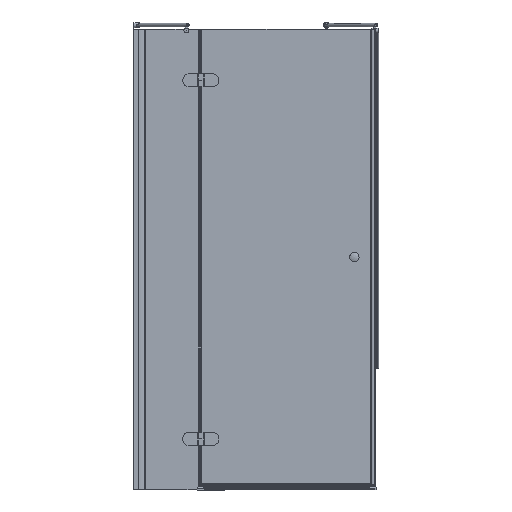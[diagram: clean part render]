
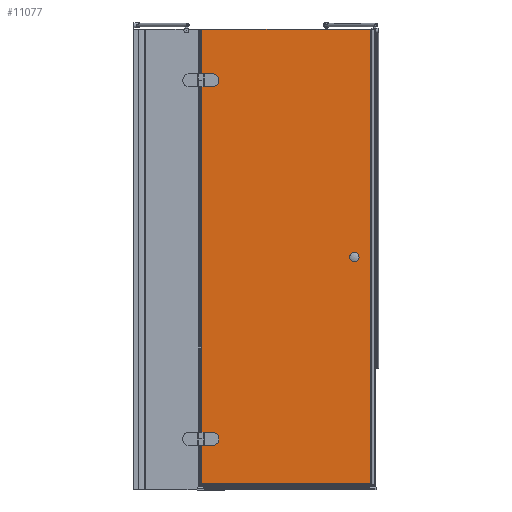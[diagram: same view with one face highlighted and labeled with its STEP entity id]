
A CAD part, front view. The second image highlights one B-rep face of the part: STEP entity #11077.
In plain terms, the highlighted planar face has unit normal (0, -1, 0).
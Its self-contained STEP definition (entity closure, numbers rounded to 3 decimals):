
#128=LINE($,#15239,#1224);
#131=LINE($,#15245,#1227);
#135=LINE($,#15255,#1231);
#178=LINE($,#15367,#1274);
#181=LINE($,#15373,#1277);
#185=LINE($,#15383,#1281);
#1053=LINE($,#18358,#2149);
#1099=LINE($,#18566,#2195);
#1105=LINE($,#18578,#2201);
#1137=LINE($,#18644,#2233);
#1224=VECTOR($,#12263,52.);
#1227=VECTOR($,#12268,23.);
#1231=VECTOR($,#12280,23.);
#1274=VECTOR($,#12387,52.);
#1277=VECTOR($,#12392,23.);
#1281=VECTOR($,#12404,23.);
#2149=VECTOR($,#14606,1875.4);
#2195=VECTOR($,#14754,1875.4);
#2201=VECTOR($,#14772,700.);
#2233=VECTOR($,#14872,700.);
#2514=FACE_BOUND($,#3752,.T.);
#2515=FACE_BOUND($,#3753,.T.);
#2516=FACE_BOUND($,#3754,.T.);
#3752=EDGE_LOOP($,(#9336,#9337,#9338,#9339));
#3753=EDGE_LOOP($,(#9340,#9341,#9342,#9343));
#3754=EDGE_LOOP($,(#9344,#9345,#9346,#9347));
#3814=CIRCLE($,#11193,26.);
#3826=CIRCLE($,#11230,26.);
#4157=VERTEX_POINT($,#15236);
#4158=VERTEX_POINT($,#15238);
#4160=VERTEX_POINT($,#15244);
#4162=VERTEX_POINT($,#15250);
#4198=VERTEX_POINT($,#15364);
#4199=VERTEX_POINT($,#15366);
#4201=VERTEX_POINT($,#15372);
#4203=VERTEX_POINT($,#15378);
#4916=VERTEX_POINT($,#18355);
#4917=VERTEX_POINT($,#18357);
#4979=VERTEX_POINT($,#18551);
#4980=VERTEX_POINT($,#18564);
#5113=EDGE_CURVE($,#4158,#4157,#128,.T.);
#5116=EDGE_CURVE($,#4160,#4158,#131,.T.);
#5119=EDGE_CURVE($,#4162,#4160,#3814,.T.);
#5122=EDGE_CURVE($,#4157,#4162,#135,.T.);
#5175=EDGE_CURVE($,#4199,#4198,#178,.T.);
#5178=EDGE_CURVE($,#4201,#4199,#181,.T.);
#5181=EDGE_CURVE($,#4203,#4201,#3826,.T.);
#5184=EDGE_CURVE($,#4198,#4203,#185,.T.);
#6329=EDGE_CURVE($,#4916,#4917,#1053,.T.);
#6410=EDGE_CURVE($,#4979,#4980,#1099,.T.);
#6416=EDGE_CURVE($,#4916,#4979,#1105,.T.);
#6449=EDGE_CURVE($,#4917,#4980,#1137,.T.);
#9336=ORIENTED_EDGE($,*,*,#5113,.T.);
#9337=ORIENTED_EDGE($,*,*,#5122,.T.);
#9338=ORIENTED_EDGE($,*,*,#5119,.T.);
#9339=ORIENTED_EDGE($,*,*,#5116,.T.);
#9340=ORIENTED_EDGE($,*,*,#5175,.T.);
#9341=ORIENTED_EDGE($,*,*,#5184,.T.);
#9342=ORIENTED_EDGE($,*,*,#5181,.T.);
#9343=ORIENTED_EDGE($,*,*,#5178,.T.);
#9344=ORIENTED_EDGE($,*,*,#6416,.T.);
#9345=ORIENTED_EDGE($,*,*,#6410,.T.);
#9346=ORIENTED_EDGE($,*,*,#6449,.F.);
#9347=ORIENTED_EDGE($,*,*,#6329,.F.);
#9865=PLANE($,#11989);
#11077=ADVANCED_FACE($,(#2514,#2515,#2516),#9865,.T.);
#11193=AXIS2_PLACEMENT_3D($,#15251,#12274,#12275);
#11230=AXIS2_PLACEMENT_3D($,#15379,#12398,#12399);
#11989=AXIS2_PLACEMENT_3D($,#18643,#14870,#14871);
#12263=DIRECTION($,(0.,0.,1.));
#12268=DIRECTION($,(-1.,0.,0.));
#12274=DIRECTION('center_axis',(0.,1.,0.));
#12275=DIRECTION('ref_axis',(0.,0.,
1.));
#12280=DIRECTION($,(1.,0.,0.));
#12387=DIRECTION($,(0.,0.,1.));
#12392=DIRECTION($,(-1.,0.,0.));
#12398=DIRECTION('center_axis',(0.,1.,0.));
#12399=DIRECTION('ref_axis',(0.,0.,
1.));
#12404=DIRECTION($,(1.,0.,0.));
#14606=DIRECTION($,(0.,0.,1.));
#14754=DIRECTION($,(0.,0.,1.));
#14772=DIRECTION($,(1.,0.,0.));
#14870=DIRECTION('center_axis',(0.,-1.,0.));
#14871=DIRECTION('ref_axis',(1.,0.,0.));
#14872=DIRECTION($,(1.,0.,0.));
#15236=CARTESIAN_POINT('',(412.876,18.956,-278.056));
#15238=CARTESIAN_POINT('',(412.876,18.956,-330.056));
#15239=CARTESIAN_POINT($,(412.876,18.956,-412.056));
#15244=CARTESIAN_POINT('',(435.876,18.956,-330.056));
#15245=CARTESIAN_POINT($,(413.876,18.956,-330.056));
#15250=CARTESIAN_POINT('',(435.876,18.956,-278.056));
#15251=CARTESIAN_POINT('Origin',(435.876,18.956,-304.056));
#15255=CARTESIAN_POINT($,(402.376,18.956,-278.056));
#15364=CARTESIAN_POINT('',(412.876,18.956,1201.944));
#15366=CARTESIAN_POINT('',(412.876,18.956,1149.944));
#15367=CARTESIAN_POINT($,(412.876,18.956,327.944));
#15372=CARTESIAN_POINT('',(435.876,18.956,1149.944));
#15373=CARTESIAN_POINT($,(413.876,18.956,1149.944));
#15378=CARTESIAN_POINT('',(435.876,18.956,1201.944));
#15379=CARTESIAN_POINT('Origin',(435.876,18.956,1175.944));
#15383=CARTESIAN_POINT($,(402.376,18.956,1201.944));
#18355=CARTESIAN_POINT('',(391.876,18.956,-489.456));
#18357=CARTESIAN_POINT('',(391.876,18.956,1385.944));
#18358=CARTESIAN_POINT($,(391.876,18.956,-494.056));
#18551=CARTESIAN_POINT('',(1091.876,18.956,-489.456));
#18564=CARTESIAN_POINT('',(1091.876,18.956,1385.944));
#18566=CARTESIAN_POINT($,(1091.876,18.956,-494.056));
#18578=CARTESIAN_POINT($,(391.876,18.956,-489.456));
#18643=CARTESIAN_POINT('Origin',(391.876,18.956,-494.056));
#18644=CARTESIAN_POINT($,(391.876,18.956,1385.944));
